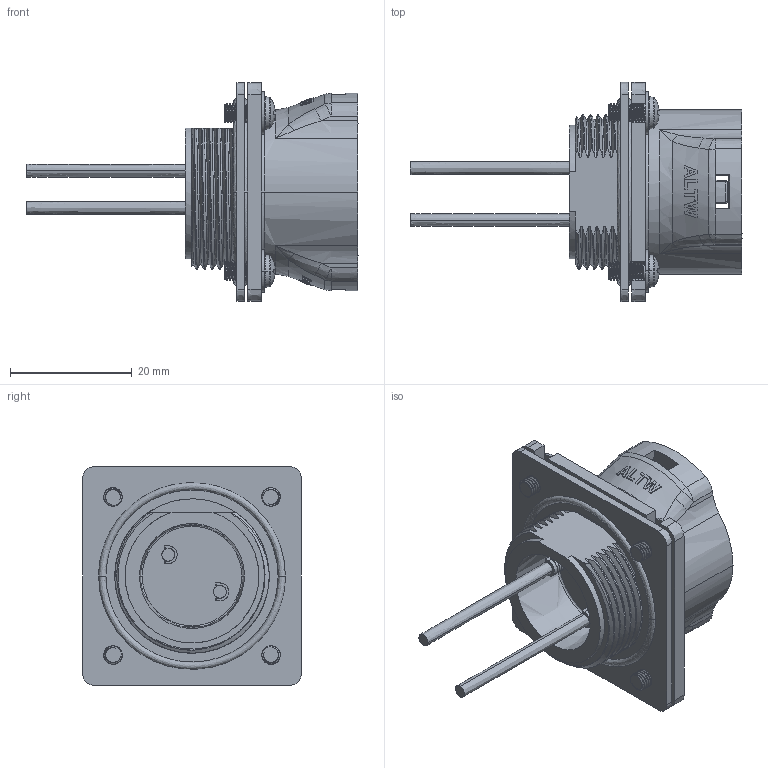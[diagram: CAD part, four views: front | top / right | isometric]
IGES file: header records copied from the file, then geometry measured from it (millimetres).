
Start section:  PTC IGES file: DC-02RFMS-RS8DXX-IGS.igs
Global section: file name: DC-02RFMS-RS8DXX-IGS.igs; native system: Creo Parametric by Parametric Technology Corporation; preprocessor: 2017170; author: L050004; organization: Unknown; date: 20211026.145643; units: millimetre
Bounding box: 54.6 x 36 x 36 mm (x, y, z)
Volume: 11257.9 mm3; surface area: 10910.8 mm2
Topology: 3 solids, 3 shells, 1232 faces, 3344 edges, 2156 vertices
Faces by surface type: bspline 1232
